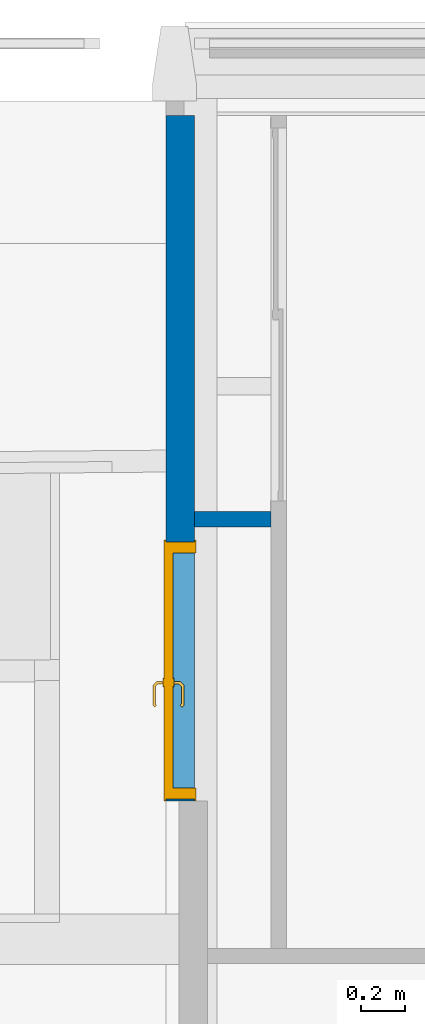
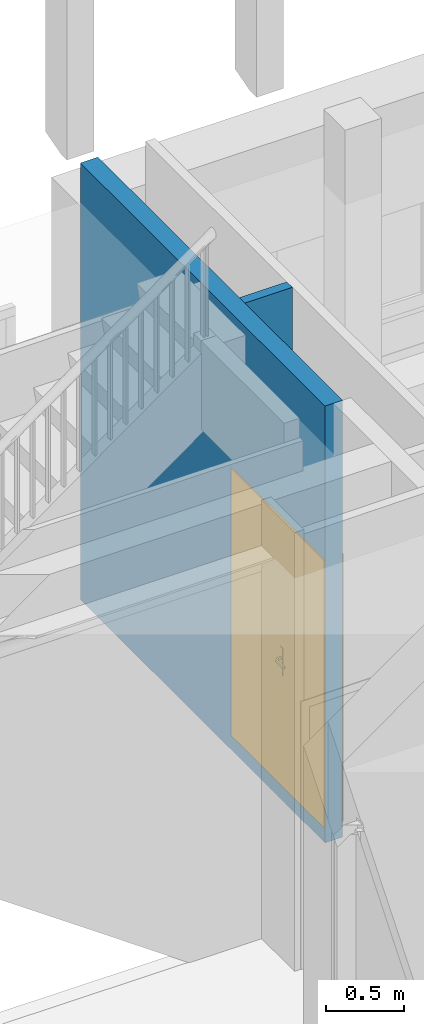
# One storey, part 41 of 65: 2 walls, 1 door, 1 opening.
"""IFC4 building model written with IfcOpenShell, lengths in metres."""

from ifc_helpers import new_model, entity, si_unit, converted_unit, derived_unit, direction, frame, origin, place, context, subcontext, project, spatial, indexed_curve, outline, extrude, polygons, source, transform, mapped, material, material_list, layer, layer_set, constituent, constituent_set, type_object, type_shapes, element, fill, save


model = new_model("IFC4")

# Units and contexts
model_context = context("Model", 3, precision=1e-05, world=origin(), true_north=direction((6.12303176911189e-17, 1.0)))
body_context = subcontext(model_context, "Body", "Model", "MODEL_VIEW")
ifc_project = project(units=[si_unit("LENGTHUNIT", "METRE"), si_unit("AREAUNIT", "SQUARE_METRE"), si_unit("VOLUMEUNIT", "CUBIC_METRE"), converted_unit("PLANEANGLEUNIT", "DEGREE", entity("IfcRatioMeasure", 0.0174532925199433), si_unit("PLANEANGLEUNIT", "RADIAN"), dimensions=[0, 0, 0, 0, 0, 0, 0]), si_unit("MASSUNIT", "GRAM", prefix="KILO"), derived_unit("MASSDENSITYUNIT", [(si_unit("MASSUNIT", "GRAM", prefix="KILO"), 1), (si_unit("LENGTHUNIT", "METRE"), -3)]), derived_unit("MOMENTOFINERTIAUNIT", [(si_unit("LENGTHUNIT", "METRE"), 4)]), si_unit("TIMEUNIT", "SECOND"), si_unit("FREQUENCYUNIT", "HERTZ"), si_unit("THERMODYNAMICTEMPERATUREUNIT", "DEGREE_CELSIUS"), derived_unit("THERMALTRANSMITTANCEUNIT", [(si_unit("MASSUNIT", "GRAM", prefix="KILO"), 1), (si_unit("THERMODYNAMICTEMPERATUREUNIT", "KELVIN"), -1), (si_unit("TIMEUNIT", "SECOND"), -3)]), derived_unit("VOLUMETRICFLOWRATEUNIT", [(si_unit("LENGTHUNIT", "METRE"), 3), (si_unit("TIMEUNIT", "SECOND"), -1)]), si_unit("ELECTRICCURRENTUNIT", "AMPERE"), si_unit("ELECTRICVOLTAGEUNIT", "VOLT"), si_unit("POWERUNIT", "WATT"), si_unit("FORCEUNIT", "NEWTON", prefix="KILO"), si_unit("ILLUMINANCEUNIT", "LUX"), si_unit("LUMINOUSFLUXUNIT", "LUMEN"), si_unit("LUMINOUSINTENSITYUNIT", "CANDELA"), derived_unit("USERDEFINED", [(si_unit("MASSUNIT", "GRAM", prefix="KILO"), -1), (si_unit("LENGTHUNIT", "METRE"), -2), (si_unit("TIMEUNIT", "SECOND"), 3), (si_unit("LUMINOUSFLUXUNIT", "LUMEN"), 1)]), derived_unit("LINEARVELOCITYUNIT", [(si_unit("LENGTHUNIT", "METRE"), 1), (si_unit("TIMEUNIT", "SECOND"), -1)]), si_unit("PRESSUREUNIT", "PASCAL"), derived_unit("USERDEFINED", [(si_unit("LENGTHUNIT", "METRE"), -2), (si_unit("MASSUNIT", "GRAM", prefix="KILO"), 1), (si_unit("TIMEUNIT", "SECOND"), -2)]), derived_unit("LINEARFORCEUNIT", [(si_unit("MASSUNIT", "GRAM", prefix="KILO"), 1), (si_unit("LENGTHUNIT", "METRE"), 1), (si_unit("TIMEUNIT", "SECOND"), -2), (si_unit("LENGTHUNIT", "METRE"), -1)]), derived_unit("PLANARFORCEUNIT", [(si_unit("MASSUNIT", "GRAM", prefix="KILO"), 1), (si_unit("LENGTHUNIT", "METRE"), 1), (si_unit("TIMEUNIT", "SECOND"), -2), (si_unit("LENGTHUNIT", "METRE"), -2)])], contexts=[model_context])

# Site, building, storey
site_placement = place(None, origin())
site = spatial("IfcSite", under=ifc_project, at=site_placement, Name="Default", CompositionType="ELEMENT")
building_placement = place(site_placement, origin())
building = spatial("IfcBuilding", under=site, at=building_placement, Name="HOTEL CONSULAIRE BOULOGNE SUR MER", CompositionType="ELEMENT")
storey_placement = place(building_placement, origin())
storey = spatial("IfcBuildingStorey", under=building, at=storey_placement, Name="Niveau 0", CompositionType="ELEMENT", Elevation=1.31981936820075e-13)

# Wall
ifc_material_1 = material(Name="Mur par défaut", Category="Divers")
ifc_layer_1 = layer(ifc_material_1, 0.07, Name="Mur par défaut", Category="Divers")
ifc_layer_set_1 = layer_set([ifc_layer_1], Name="Mur de base:Int. Plâtre 70 mm")
wall_type_1 = type_object("IfcWallType", Name="Mur de base:Int. Plâtre 70 mm", PredefinedType="NOTDEFINED", material=ifc_layer_set_1)
wall_1_placement = place(storey_placement, frame((-0.778815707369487, -11.9920736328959, -0.0200000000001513), z_axis=(0.0, 0.0, 1.0), x_axis=(-1.0, 0.0, 0.0)))
element("IfcWall", 1, at=wall_1_placement, inside=storey, type_object=wall_type_1, material=ifc_layer_set_1, Name="Mur de base:Int. Plâtre 70 mm", ObjectType="Mur de base:Int. Plâtre 70 mm", PredefinedType="NOTDEFINED", context=body_context, shape_type="Tessellation", body=[
    polygons([(1.49249941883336e-16, -0.0349999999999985, -2.15727435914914e-16), (0.350607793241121, -0.0349999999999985, -2.15727435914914e-16), (0.350607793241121, -0.0349999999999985, 3.40652697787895), (2.84608333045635e-16, -0.0349999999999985, 3.40652697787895), (0.350607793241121, 0.0350000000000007, -2.15727435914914e-16), (1.05105122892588e-17, 0.0350000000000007, -2.15727435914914e-16), (1.05105122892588e-17, 0.0350000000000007, 3.40652697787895), (0.350607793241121, 0.0350000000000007, 3.40652697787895)], [[[4, 1, 2, 3]], [[8, 5, 6, 7]], [[2, 1, 6, 5]], [[2, 5, 8, 3]], [[6, 1, 4, 7]], [[8, 7, 4, 3]]], closed=True),
])

# Wall, opening, door
ifc_layer_2 = layer(ifc_material_1, 0.13, Name="Mur par défaut", Category="Divers")
ifc_layer_set_2 = layer_set([ifc_layer_2], Name="Mur de base:Int. Plâtre 130 mm")
wall_type_2 = type_object("IfcWallType", Name="Mur de base:Int. Plâtre 130 mm", PredefinedType="NOTDEFINED", material=ifc_layer_set_2)
wall_2_placement = place(storey_placement, frame((-1.19442350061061, -13.2765679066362, -0.0200000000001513), z_axis=(0.0, 0.0, 1.0), x_axis=(0.0, 1.0, 0.0)))
wall_2 = element("IfcWall", 2, at=wall_2_placement, inside=storey, type_object=wall_type_2, material=ifc_layer_set_2, Name="Mur de base:Int. Plâtre 130 mm", ObjectType="Mur de base:Int. Plâtre 130 mm", PredefinedType="NOTDEFINED", context=body_context, shape_type="Tessellation", body=[
    polygons([(0.0, -0.065, -2.15727435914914e-16), (1.24949427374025, -0.065, -2.15727435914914e-16), (1.31949427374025, -0.0650000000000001, -2.15727435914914e-16), (3.12624374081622, -0.065, -2.15727435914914e-16), (3.12624374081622, -0.065, 0.799733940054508), (3.12624374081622, -0.065, 2.21100000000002), (3.12624374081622, -0.065, 3.40652697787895), (1.31949427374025, -0.0650000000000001, 3.40652697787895), (1.24949427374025, -0.065, 3.40652697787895), (0.0, -0.065, 3.40652697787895), (0.00999999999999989, -0.0650000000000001, 0.12), (0.00999999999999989, -0.0650000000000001, 2.195), (1.18, -0.0650000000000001, 2.195), (1.18, -0.0650000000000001, 0.12), (3.12624374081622, 0.0649999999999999, -2.15727435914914e-16), (0.734935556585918, 0.065, -2.15727435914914e-16), (0.0, 0.0649999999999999, 0.0), (0.0, 0.0649999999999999, 3.40652697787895), (1.49994679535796, 0.0649999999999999, 3.40652697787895), (1.59995035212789, 0.0649999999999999, 3.40652697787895), (3.12624374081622, 0.0649999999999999, 3.40652697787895), (3.12624374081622, 0.0649999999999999, 3.07110477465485), (0.00999999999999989, 0.065, 2.195), (0.00999999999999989, 0.065, 0.12), (1.18, 0.065, 0.12), (1.18, 0.065, 2.195), (0.0, 0.004, -2.15727435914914e-16), (0.0, 0.004, 3.40652697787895)], [[[1, 2, 3, 4, 5, 6, 7, 8, 9, 10], [11, 12, 13, 14]], [[15, 16, 17, 18, 19, 20, 21, 22], [26, 23, 24, 25]], [[3, 2, 1, 27, 17, 16, 15, 4]], [[13, 12, 23, 26]], [[1, 10, 28, 18, 17, 27]], [[14, 13, 26, 25]], [[12, 11, 24, 23]], [[6, 5, 4, 15, 22, 21, 7]], [[11, 14, 25, 24]], [[21, 20, 19, 18, 28, 10, 9, 8, 7]]], closed=True),
])
opening_placement = place(wall_2_placement, frame((0.00999999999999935, -0.0649999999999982, 0.120000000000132)))
opening = element("IfcOpeningElement", 3, at=opening_placement, cuts=wall_2, Name="Double (R):1.10x2.04:1", ObjectType="Opening", PredefinedType="OPENING", context=body_context, shape_type="SweptSolid", body=[
    extrude(outline(indexed_curve([(0.0, 5.41433564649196e-16), (2.075, 5.41433564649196e-16), (2.075, 1.17), (0.0, 1.17), (0.0, 5.41433564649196e-16)], self_intersect=False)), frame((0.0, 0.0, 0.0), z_axis=(0.0, 1.0, 0.0), x_axis=(0.0, 0.0, 1.0)), (0.0, 0.0, 1.0), 0.13),
])
ifc_material_2 = material(Name="Porte - Poignée", Category="Métal")
ifc_constituent_1 = constituent(ifc_material_2, Name="Porte - Poignée", Category="Matériaux")
ifc_material_3 = material(Name="Porte - Cadre", Category="Peinture")
ifc_constituent_2 = constituent(ifc_material_3, Name="Porte - Cadre", Category="Matériaux")
ifc_material_4 = material(Name="Porte - Panneau", Category="Bois")
ifc_constituent_3 = constituent(ifc_material_4, Name="Porte - Panneau", Category="Matériaux")
ifc_constituent_set = constituent_set(constituents=[ifc_constituent_1, ifc_constituent_2, ifc_constituent_3], Name="MaterialConstituentSet")
ifc_material_list = material_list([ifc_material_4, ifc_material_3, ifc_material_2])
door_type = type_object("IfcDoorType", Name="Double (R):1.10x2.04", OperationType="DOUBLE_DOOR_SINGLE_SWING", PredefinedType="DOOR", material=ifc_material_list)
shared_shape = source(origin(), body_context, "Body", "Tessellation", [
    polygons([(0.64600000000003, 0.0369999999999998, 0.993000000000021), (0.646000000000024, 0.0369999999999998, 1.00699999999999), (0.642025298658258, 0.0369999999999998, 1.00778044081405), (0.637974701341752, 0.0369999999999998, 1.00778044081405), (0.633999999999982, 0.0369999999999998, 1.00699999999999), (0.633999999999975, 0.0369999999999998, 0.992999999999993), (0.637974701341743, 0.0369999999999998, 0.992219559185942), (0.642025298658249, 0.0369999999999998, 0.992219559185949), (0.64600000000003, 0.0594852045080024, 0.993000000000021), (0.64600000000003, 0.0594852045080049, 1.00699999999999), (0.642025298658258, 0.061131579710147, 1.00778044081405), (0.637974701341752, 0.062809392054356, 1.00778044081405), (0.633999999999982, 0.0644557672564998, 1.00699999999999), (0.633999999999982, 0.0644557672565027, 0.992999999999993), (0.637974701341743, 0.0628093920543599, 0.992219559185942), (0.642025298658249, 0.0611315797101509, 0.992219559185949), (0.657485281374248, 0.0709704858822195, 0.993000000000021), (0.65748528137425, 0.0709704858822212, 1.00699999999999), (0.655838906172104, 0.0749451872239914, 1.00778044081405), (0.654161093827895, 0.0789957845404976, 1.00778044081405), (0.652514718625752, 0.0829704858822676, 1.00699999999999), (0.652514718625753, 0.0829704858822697, 0.992999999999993), (0.654161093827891, 0.078995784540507, 0.992219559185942), (0.6558389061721, 0.0749451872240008, 0.992219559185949), (0.737560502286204, 0.0709704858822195, 0.993000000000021), (0.737560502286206, 0.0709704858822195, 1.00699999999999), (0.739206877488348, 0.0749451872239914, 1.00778044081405), (0.740884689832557, 0.0789957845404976, 1.00778044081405), (0.7425310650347, 0.0829704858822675, 1.00699999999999), (0.702600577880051, 0.0829704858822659, 1.00699999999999), (0.697522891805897, 0.0771249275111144, 1.00787811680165), (0.697522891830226, 0.0709704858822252, 1.00699999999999), (0.742531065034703, 0.0829704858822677, 0.992999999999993), (0.74088468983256, 0.078995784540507, 0.992219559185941), (0.739206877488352, 0.0749451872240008, 0.992219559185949), (0.692445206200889, 0.0829704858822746, 0.992999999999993), (0.697522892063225, 0.0771249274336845, 0.992121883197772), (0.697522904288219, 0.0709704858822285, 0.993000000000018), (0.742874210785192, 0.0656567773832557, 0.993000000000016), (0.745684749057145, 0.0684673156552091, 0.992219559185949), (0.748548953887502, 0.0713315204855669, 0.992219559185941), (0.751359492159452, 0.0741420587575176, 0.992999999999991), (0.751359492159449, 0.074142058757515, 1.00699999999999), (0.748548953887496, 0.0713315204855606, 1.00778044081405), (0.745684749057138, 0.0684673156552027, 1.00778044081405), (0.74287421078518, 0.065656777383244, 1.00699999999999)], [[[4, 5, 6, 7, 8, 1, 2, 3]], [[18, 17, 38, 25, 26, 32]], [[2, 1, 9, 10]], [[10, 11, 3, 2]], [[11, 19, 20, 12, 4, 3]], [[45, 44, 28, 27]], [[12, 13, 5, 4]], [[6, 5, 13, 14]], [[14, 15, 7, 6]], [[15, 23, 24, 16, 8, 7]], [[41, 40, 35, 34]], [[16, 9, 1, 8]], [[10, 9, 17, 18]], [[39, 40, 41, 42, 43, 44, 45, 46]], [[18, 19, 11, 10]], [[20, 21, 13, 12]], [[14, 13, 21, 22]], [[22, 23, 15, 14]], [[24, 17, 9, 16]], [[19, 32, 31]], [[28, 29, 30]], [[21, 20, 30]], [[30, 20, 31]], [[31, 32, 27]], [[27, 28, 31]], [[32, 19, 18]], [[26, 27, 32]], [[19, 31, 20]], [[30, 31, 28]], [[22, 21, 30, 29, 33, 36]], [[36, 37, 23]], [[37, 36, 34]], [[23, 22, 36]], [[33, 34, 36]], [[37, 38, 24]], [[24, 23, 37]], [[35, 38, 37]], [[17, 24, 38]], [[38, 35, 25]], [[35, 37, 34]], [[26, 25, 39, 46]], [[46, 45, 27, 26]], [[44, 43, 29, 28]], [[33, 29, 43, 42]], [[42, 41, 34, 33]], [[40, 39, 25, 35]]], closed=True),
    polygons([(0.633999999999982, -0.0130000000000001, 1.00699999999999), (0.637974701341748, -0.0130000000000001, 1.00778044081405), (0.642025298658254, -0.0130000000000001, 1.00778044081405), (0.646000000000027, -0.0130000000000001, 1.00699999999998), (0.646000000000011, -0.0130000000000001, 0.993000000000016), (0.642025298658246, -0.0130000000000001, 0.992219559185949), (0.63797470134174, -0.0130000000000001, 0.992219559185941), (0.633999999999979, -0.0130000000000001, 0.992999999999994), (0.633999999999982, -0.0406509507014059, 1.00699999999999), (0.637974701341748, -0.0390045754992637, 1.00778044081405), (0.642025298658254, -0.0373267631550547, 1.00778044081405), (0.646000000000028, -0.0356803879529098, 1.00699999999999), (0.646000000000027, -0.0356803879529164, 0.993000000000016), (0.642025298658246, -0.037326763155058, 0.992219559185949), (0.63797470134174, -0.039004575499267, 0.992219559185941), (0.633999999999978, -0.0406509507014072, 0.992999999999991), (0.652377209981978, -0.0590281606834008, 1.00699999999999), (0.65402358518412, -0.0550534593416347, 1.00778044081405), (0.655701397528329, -0.0510028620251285, 1.00778044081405), (0.657347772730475, -0.0470281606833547, 1.00699999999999), (0.657347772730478, -0.0470281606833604, 0.993000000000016), (0.655701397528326, -0.0510028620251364, 0.992219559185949), (0.654023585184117, -0.0550534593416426, 0.992219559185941), (0.652377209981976, -0.0590281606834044, 0.992999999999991), (0.742503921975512, -0.0590281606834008, 1.00699999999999), (0.74085754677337, -0.0550534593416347, 1.00778044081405), (0.739179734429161, -0.0510028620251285, 1.00778044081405), (0.737533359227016, -0.0470281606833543, 1.00699999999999), (0.692307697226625, -0.0590281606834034, 1.00699999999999), (0.697440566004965, -0.0531828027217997, 1.00787811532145), (0.697440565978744, -0.0470281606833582, 1.00699999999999), (0.737533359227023, -0.0470281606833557, 0.993000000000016), (0.739179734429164, -0.0510028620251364, 0.992219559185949), (0.740857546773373, -0.0550534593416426, 0.992219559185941), (0.742503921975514, -0.0590281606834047, 0.992999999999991), (0.702573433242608, -0.0590281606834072, 0.992999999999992), (0.69744056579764, -0.0531828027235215, 0.992121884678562), (0.697440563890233, -0.0470281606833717, 0.993000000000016), (0.751332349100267, -0.0501997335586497, 1.00699999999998), (0.751332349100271, -0.0501997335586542, 0.992999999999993), (0.748521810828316, -0.0473891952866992, 0.992219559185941), (0.745657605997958, -0.0445249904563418, 0.992219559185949), (0.742847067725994, -0.0417144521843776, 0.993000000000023), (0.742847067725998, -0.041714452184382, 1.00699999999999), (0.745657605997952, -0.044524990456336, 1.00778044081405), (0.74852181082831, -0.0473891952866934, 1.00778044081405)], [[[2, 3, 4, 5, 6, 7, 8, 1]], [[21, 20, 31, 28, 32, 38]], [[9, 10, 2, 1]], [[10, 18, 19, 11, 3, 2]], [[46, 45, 27, 26]], [[11, 12, 4, 3]], [[5, 4, 12, 13]], [[13, 14, 6, 5]], [[14, 22, 23, 15, 7, 6]], [[42, 41, 34, 33]], [[15, 16, 8, 7]], [[1, 8, 16, 9]], [[17, 18, 10, 9]], [[19, 20, 12, 11]], [[13, 12, 20, 21]], [[44, 45, 46, 39, 40, 41, 42, 43]], [[21, 22, 14, 13]], [[23, 24, 16, 15]], [[9, 16, 24, 17]], [[29, 30, 18]], [[30, 29, 26]], [[18, 17, 29]], [[25, 26, 29]], [[30, 31, 19]], [[19, 18, 30]], [[27, 31, 30]], [[20, 19, 31]], [[31, 27, 28]], [[27, 30, 26]], [[22, 38, 37]], [[34, 35, 36]], [[24, 23, 36]], [[36, 23, 37]], [[37, 38, 33]], [[33, 34, 37]], [[38, 22, 21]], [[32, 33, 38]], [[22, 37, 23]], [[36, 37, 34]], [[17, 24, 36, 35, 25, 29]], [[39, 46, 26, 25]], [[45, 44, 28, 27]], [[32, 28, 44, 43]], [[43, 42, 33, 32]], [[41, 40, 35, 34]], [[25, 35, 40, 39]]], closed=True),
    polygons([(0.659999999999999, 0.0319999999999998, 1.08), (0.6503527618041, 0.0319999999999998, 1.08399601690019), (0.639999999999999, 0.0319999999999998, 1.08535898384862), (0.629647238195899, 0.0319999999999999, 1.08399601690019), (0.62, 0.0319999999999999, 1.08), (0.62, 0.0319999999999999, 0.870000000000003), (0.629647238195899, 0.0319999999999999, 0.866003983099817), (0.639999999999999, 0.0319999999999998, 0.864641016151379), (0.6503527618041, 0.0319999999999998, 0.866003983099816), (0.659999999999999, 0.0319999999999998, 0.870000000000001), (0.659999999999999, 0.0369999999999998, 1.08), (0.659999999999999, 0.0369999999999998, 0.870000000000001), (0.6503527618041, 0.0369999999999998, 0.866003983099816), (0.639999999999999, 0.0369999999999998, 0.864641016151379), (0.629647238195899, 0.0369999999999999, 0.866003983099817), (0.62, 0.0369999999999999, 0.870000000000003), (0.62, 0.0369999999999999, 1.08), (0.629647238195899, 0.0369999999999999, 1.08399601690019), (0.639999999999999, 0.0369999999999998, 1.08535898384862), (0.6503527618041, 0.0369999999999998, 1.08399601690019)], [[[9, 10, 1, 2, 3, 4, 5, 6, 7, 8]], [[20, 11, 12, 13, 14, 15, 16, 17, 18, 19]], [[11, 20, 2, 1]], [[2, 20, 19, 3]], [[19, 18, 4, 3]], [[18, 17, 5, 4]], [[6, 5, 17, 16]], [[16, 15, 7, 6]], [[7, 15, 14, 8]], [[14, 13, 9, 8]], [[13, 12, 10, 9]], [[1, 10, 12, 11]]], closed=True),
    polygons([(0.62, -0.0130000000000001, 0.870000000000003), (0.629647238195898, -0.0130000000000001, 0.866003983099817), (0.639999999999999, -0.0130000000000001, 0.864641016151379), (0.6503527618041, -0.0130000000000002, 0.866003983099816), (0.659999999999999, -0.0130000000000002, 0.870000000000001), (0.659999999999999, -0.0130000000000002, 1.08), (0.6503527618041, -0.0130000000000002, 1.08399601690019), (0.639999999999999, -0.0130000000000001, 1.08535898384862), (0.629647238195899, -0.0130000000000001, 1.08399601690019), (0.62, -0.0130000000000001, 1.08), (0.62, -0.00800000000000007, 0.870000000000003), (0.62, -0.00800000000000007, 1.08), (0.629647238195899, -0.0080000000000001, 1.08399601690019), (0.639999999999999, -0.00800000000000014, 1.08535898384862), (0.6503527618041, -0.00800000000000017, 1.08399601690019), (0.659999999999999, -0.00800000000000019, 1.08), (0.659999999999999, -0.00800000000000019, 0.870000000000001), (0.6503527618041, -0.00800000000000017, 0.866003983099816), (0.639999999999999, -0.00800000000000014, 0.864641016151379), (0.629647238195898, -0.0080000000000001, 0.866003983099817)], [[[4, 5, 6, 7, 8, 9, 10, 1, 2, 3]], [[15, 16, 17, 18, 19, 20, 11, 12, 13, 14]], [[11, 20, 2, 1]], [[2, 20, 19, 3]], [[19, 18, 4, 3]], [[18, 17, 5, 4]], [[6, 5, 17, 16]], [[16, 15, 7, 6]], [[7, 15, 14, 8]], [[14, 13, 9, 8]], [[13, 12, 10, 9]], [[1, 10, 12, 11]]], closed=True),
    polygons([(2.70716782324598e-16, 0.0, 0.0), (2.70716782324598e-16, 0.130000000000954, 0.0), (-0.00999999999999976, 0.130000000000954, 0.0), (-0.00999999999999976, 0.138000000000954, 0.0), (0.049999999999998, 0.138000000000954, 0.0), (0.049999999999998, 0.032, 0.0), (0.0349999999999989, 0.032, 0.0), (0.0349999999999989, -0.00799999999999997, 0.0), (-0.00999999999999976, -0.00799999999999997, 0.0), (-0.00999999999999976, 0.0, 0.0), (2.70716782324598e-16, 0.0, 2.075), (2.70716782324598e-16, 0.130000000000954, 2.075), (1.17, 0.130000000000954, 2.075), (1.17, 0.130000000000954, 0.0), (1.18, 0.130000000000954, 0.0), (1.18, 0.130000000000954, 2.085), (-0.00999999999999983, 0.130000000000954, 2.085), (-0.00999999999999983, 0.138000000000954, 2.085), (1.18, 0.138000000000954, 2.085), (1.18, 0.138000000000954, 1.57683712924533e-24), (1.12, 0.138000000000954, -7.73907743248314e-25), (1.12, 0.138000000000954, 2.025), (0.049999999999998, 0.138000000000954, 2.025), (0.049999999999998, 0.032, 2.025), (1.12, 0.032, 2.025), (1.12, 0.032, 3.69533799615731e-24), (1.135, 0.032, 9.76126985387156e-25), (1.135, 0.032, 2.04), (0.0349999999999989, 0.032, 2.04), (0.0349999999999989, -0.00799999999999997, 2.04), (1.135, -0.00799999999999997, 2.04), (1.135, -0.00799999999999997, 1.58195894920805e-25), (1.18, -0.00799999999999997, 2.76842753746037e-24), (1.18, -0.00799999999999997, 2.085), (-0.00999999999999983, -0.00799999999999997, 2.085), (-0.00999999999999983, 0.0, 2.085), (1.18, 0.0, 2.085), (1.18, 0.0, 1.57683712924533e-24), (1.17, 0.0, 4.54670830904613e-24), (1.17, 0.0, 2.075)], [[[2, 3, 4, 5, 6, 7, 8, 9, 10, 1]], [[20, 15, 14, 39, 38, 33, 32, 27, 26, 21]], [[24, 23, 22, 25]], [[30, 29, 28, 31]], [[2, 1, 11, 12]], [[4, 3, 17, 18]], [[10, 9, 35, 36]], [[25, 22, 21, 26]], [[31, 28, 27, 32]], [[14, 15, 16, 17, 3, 2, 12, 13]], [[26, 27, 28, 29, 7, 6, 24, 25]], [[32, 33, 34, 35, 9, 8, 30, 31]], [[5, 4, 18, 19, 20, 21, 22, 23]], [[1, 10, 36, 37, 38, 39, 40, 11]], [[6, 5, 23, 24]], [[8, 7, 29, 30]], [[13, 40, 39, 14]], [[19, 16, 15, 20]], [[37, 34, 33, 38]], [[12, 11, 40, 13]], [[18, 17, 16, 19]], [[36, 35, 34, 37]]], closed=True),
    polygons([(1.135, -0.00799999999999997, 0.0), (1.135, -0.00799999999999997, 2.04), (0.585, -0.00799999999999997, 2.04), (0.585, -0.00799999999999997, 0.0), (1.135, 0.032, 0.0), (0.585, 0.032, 0.0), (0.585, 0.032, 2.04), (1.135, 0.032, 2.04)], [[[4, 1, 2, 3]], [[7, 8, 5, 6]], [[2, 1, 5, 8]], [[3, 2, 8, 7]], [[4, 3, 7, 6]], [[1, 4, 6, 5]]], closed=True),
    polygons([(0.034999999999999, -0.00799999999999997, 2.04), (0.0349999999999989, -0.00799999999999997, 5.01327374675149e-19), (0.585, -0.00799999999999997, 0.0), (0.585, -0.00799999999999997, 2.04), (0.034999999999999, 0.032, 2.04), (0.585, 0.032, 2.04), (0.585, 0.032, 0.0), (0.0349999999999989, 0.032, 0.0)], [[[4, 1, 2, 3]], [[7, 8, 5, 6]], [[2, 1, 5, 8]], [[3, 2, 8, 7]], [[4, 3, 7, 6]], [[1, 4, 6, 5]]], closed=True),
])
type_shapes(door_type, [shared_shape])
door_placement = place(opening_placement, frame((1.17, 0.129999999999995, 0.0), z_axis=(0.0, 0.0, 1.0), x_axis=(-1.0, 0.0, 0.0)))
door = element("IfcDoor", 4, at=door_placement, inside=storey, type_object=door_type, material=ifc_constituent_set, Name="Double (R):1.10x2.04", ObjectType="Double (R):1.10x2.04", OperationType="DOUBLE_DOOR_SINGLE_SWING", OverallHeight=2.075, OverallWidth=1.17, PredefinedType="DOOR", context=body_context, shape_type="MappedRepresentation", body=[
    mapped(shared_shape, transform((0.0, 0.0, 0.0), scale=1.0)),
])
fill(opening, door)

save(model, "model.ifc")
